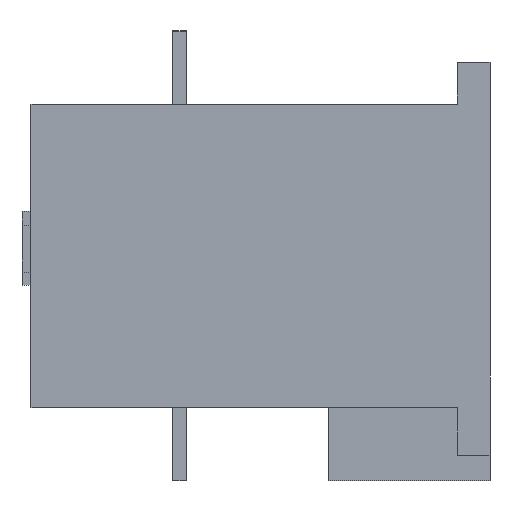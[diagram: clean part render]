
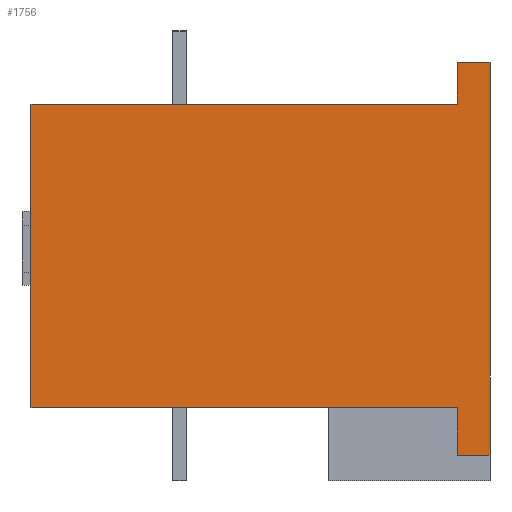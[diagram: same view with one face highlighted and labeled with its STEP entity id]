
A CAD part, left-side view. The second image highlights one B-rep face of the part: STEP entity #1756.
In plain terms, the highlighted planar face has unit normal (-1, 0, 0).
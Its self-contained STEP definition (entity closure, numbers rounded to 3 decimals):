
#78 = FACE_OUTER_BOUND ( 'NONE', #1376, .T. ) ;
#443 = LINE ( 'NONE', #1704, #454 ) ;
#454 = VECTOR ( 'NONE', #1583, 1000. ) ;
#509 = LINE ( 'NONE', #1636, #518 ) ;
#513 = LINE ( 'NONE', #1738, #516 ) ;
#516 = VECTOR ( 'NONE', #1672, 1000. ) ;
#517 = LINE ( 'NONE', #1692, #520 ) ;
#518 = VECTOR ( 'NONE', #1677, 1000. ) ;
#519 = LINE ( 'NONE', #1671, #522 ) ;
#520 = VECTOR ( 'NONE', #1739, 1000. ) ;
#521 = LINE ( 'NONE', #1674, #524 ) ;
#522 = VECTOR ( 'NONE', #1732, 1000. ) ;
#524 = VECTOR ( 'NONE', #1663, 1000. ) ;
#560 = LINE ( 'NONE', #1686, #563 ) ;
#563 = VECTOR ( 'NONE', #1705, 1000. ) ;
#570 = VECTOR ( 'NONE', #596, 1000. ) ;
#571 = LINE ( 'NONE', #623, #570 ) ;
#596 = DIRECTION ( 'NONE',  ( 0., -1., 0. ) ) ;
#623 = CARTESIAN_POINT ( 'NONE',  ( -72.5, 204., -67.5 ) ) ;
#977 = DIRECTION ( 'NONE',  ( 0., 0., -1. ) ) ;
#978 = DIRECTION ( 'NONE',  ( 1., 0., 0. ) ) ;
#981 = PLANE ( 'NONE',  #2149 ) ;
#988 = CARTESIAN_POINT ( 'NONE',  ( -72.5, 204., 67.5 ) ) ;
#1049 = CARTESIAN_POINT ( 'NONE',  ( -72.5, 204., 67.5 ) ) ;
#1050 = CARTESIAN_POINT ( 'NONE',  ( -72.5, 14.5, 86. ) ) ;
#1051 = CARTESIAN_POINT ( 'NONE',  ( -72.5, 204., -67.5 ) ) ;
#1068 = CARTESIAN_POINT ( 'NONE',  ( -72.5, 0., 86. ) ) ;
#1069 = CARTESIAN_POINT ( 'NONE',  ( -72.5, 14.5, -67.5 ) ) ;
#1164 = CARTESIAN_POINT ( 'NONE',  ( -72.5, 14.5, 67.5 ) ) ;
#1183 = CARTESIAN_POINT ( 'NONE',  ( -72.5, 0., -88.5 ) ) ;
#1250 = CARTESIAN_POINT ( 'NONE',  ( -72.5, 14.5, -88.5 ) ) ;
#1376 = EDGE_LOOP ( 'NONE', ( #1994, #2006, #2037, #1917, #1905, #2075, #1991, #2064 ) ) ;
#1472 = VERTEX_POINT ( 'NONE', #1183 ) ;
#1485 = VERTEX_POINT ( 'NONE', #1164 ) ;
#1545 = VERTEX_POINT ( 'NONE', #1069 ) ;
#1546 = VERTEX_POINT ( 'NONE', #1068 ) ;
#1558 = VERTEX_POINT ( 'NONE', #1051 ) ;
#1559 = VERTEX_POINT ( 'NONE', #1050 ) ;
#1561 = VERTEX_POINT ( 'NONE', #1049 ) ;
#1567 = VERTEX_POINT ( 'NONE', #1250 ) ;
#1583 = DIRECTION ( 'NONE',  ( 0., -1., 0. ) ) ;
#1636 = CARTESIAN_POINT ( 'NONE',  ( -72.5, 14.5, 86. ) ) ;
#1663 = DIRECTION ( 'NONE',  ( 0., -1., 0. ) ) ;
#1671 = CARTESIAN_POINT ( 'NONE',  ( -72.5, 14.5, -67.5 ) ) ;
#1672 = DIRECTION ( 'NONE',  ( 0., 0., 1. ) ) ;
#1674 = CARTESIAN_POINT ( 'NONE',  ( -72.5, 14.5, -88.5 ) ) ;
#1677 = DIRECTION ( 'NONE',  ( 0., -1., 0. ) ) ;
#1686 = CARTESIAN_POINT ( 'NONE',  ( -72.5, 204., 67.5 ) ) ;
#1692 = CARTESIAN_POINT ( 'NONE',  ( -72.5, 14.5, 67.5 ) ) ;
#1704 = CARTESIAN_POINT ( 'NONE',  ( -72.5, 204., 67.5 ) ) ;
#1705 = DIRECTION ( 'NONE',  ( 0., 0., 1. ) ) ;
#1732 = DIRECTION ( 'NONE',  ( 0., 0., 1. ) ) ;
#1738 = CARTESIAN_POINT ( 'NONE',  ( -72.5, 0., 67.5 ) ) ;
#1739 = DIRECTION ( 'NONE',  ( 0., 0., 1. ) ) ;
#1756 = ADVANCED_FACE ( 'NONE', ( #78 ), #981, .F. ) ;
#1905 = ORIENTED_EDGE ( 'NONE', *, *, #2590, .F. ) ;
#1917 = ORIENTED_EDGE ( 'NONE', *, *, #2533, .F. ) ;
#1991 = ORIENTED_EDGE ( 'NONE', *, *, #2567, .F. ) ;
#1994 = ORIENTED_EDGE ( 'NONE', *, *, #2564, .T. ) ;
#2006 = ORIENTED_EDGE ( 'NONE', *, *, #2565, .F. ) ;
#2037 = ORIENTED_EDGE ( 'NONE', *, *, #2566, .F. ) ;
#2064 = ORIENTED_EDGE ( 'NONE', *, *, #2568, .T. ) ;
#2075 = ORIENTED_EDGE ( 'NONE', *, *, #2705, .T. ) ;
#2149 = AXIS2_PLACEMENT_3D ( 'NONE', #988, #978, #977 ) ;
#2533 = EDGE_CURVE ( 'NONE', #1561, #1485, #443, .T. ) ;
#2564 = EDGE_CURVE ( 'NONE', #1472, #1546, #513, .T. ) ;
#2565 = EDGE_CURVE ( 'NONE', #1559, #1546, #509, .T. ) ;
#2566 = EDGE_CURVE ( 'NONE', #1485, #1559, #517, .T. ) ;
#2567 = EDGE_CURVE ( 'NONE', #1567, #1545, #519, .T. ) ;
#2568 = EDGE_CURVE ( 'NONE', #1567, #1472, #521, .T. ) ;
#2590 = EDGE_CURVE ( 'NONE', #1558, #1561, #560, .T. ) ;
#2705 = EDGE_CURVE ( 'NONE', #1558, #1545, #571, .T. ) ;
